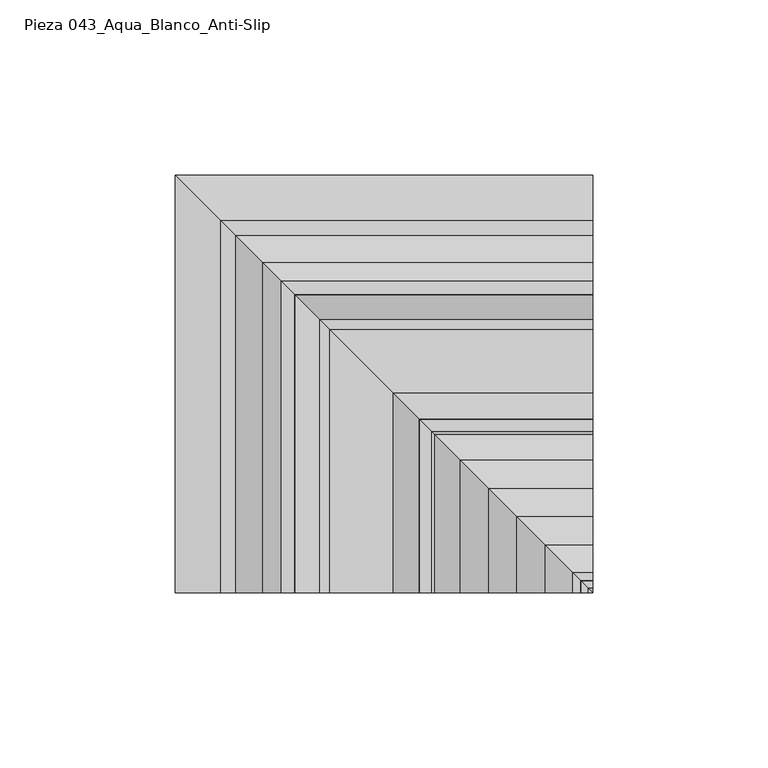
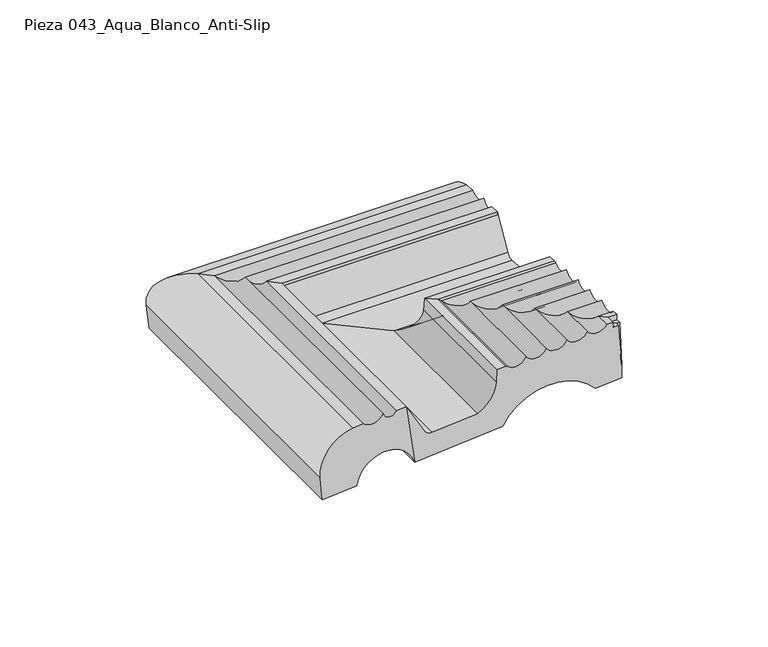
"""IFC4 building model written with IfcOpenShell, lengths in millimetres: proxy geometry, ROSA GRES_043 : Pieza 043_Aqua_Blanco_Anti-Slip."""

from ifc_helpers import new_model, si_unit, frame, origin, place, context, project, spatial, polyline, circle_curve, ellipse_curve, source, transform, mapped, element, save
from ifc_brep_helpers import plane_surface, cylinder_surface, revolved_surface, advanced_brep


def pieza_043_aqua_blanco_anti_slip_a5cfc191(model_context):
    return source(origin(), model_context, "Body", "AdvancedBrep", [
        advanced_brep(
        [(14.4453652, -119.0, 174.3159971), (37.253141, -119.0, 176.172444), (33.9473302, -119.0, 200.4746837), (30.0056531, -119.0, 200.1538709), (24.7958268, -119.0, 200.6193952), (17.0075724, -119.0, 199.1796191), (12.8459835, -119.0, 198.875801), (0.0, -119.0, 182.547869), (0.7606998, -119.0, 173.202129), (118.9496499, -14.4957154, 174.3159971), (118.9496499, -0.8110499, 173.202129), (118.9496499, -0.0503501, 182.547869), (118.9496499, -12.8963336, 198.875801), (118.9496499, -17.0579226, 199.1796191), (118.9496499, -24.8461769, 200.6193952), (118.9496499, -30.0560033, 200.1538709), (118.9496499, -33.9976804, 200.4746837), (118.9496499, -37.3034911, 176.172444), (0.7606998, -0.8110499, 173.202129), (14.4453652, -14.4957154, 174.3159971), (0.0, -0.0503501, 182.547869), (12.8459835, -12.8963336, 198.875801), (17.0075724, -17.0579226, 199.1796191), (24.7958268, -24.8461769, 200.6193952), (30.0056531, -30.0560033, 200.1538709), (33.9473302, -33.9976804, 200.4746837), (37.253141, -37.3034911, 176.172444)],
        [
            (0, 1, circle_curve(frame((26.0256757, -119.0, 173.0767428), z_axis=(0.0, 1.0, 0.0), x_axis=(-1.0, 0.0, 0.0)), 11.6464304)),
            (1, 2),
            (2, 3),
            (3, 4, circle_curve(frame((27.4682931, -119.0, 201.142641), z_axis=(0.0, 1.0, 0.0), x_axis=(-1.0, 0.0, 0.0)), 2.7232081)),
            (4, 5, circle_curve(frame((20.3719636, -119.0, 202.7650351), z_axis=(0.0, 1.0, 0.0), x_axis=(-1.0, 0.0, 0.0)), 4.9167404)),
            (5, 6),
            (6, 7, circle_curve(frame((15.2247132, -119.0, 183.7870899), z_axis=(0.0, -1.0, 0.0), x_axis=(-1.0, 0.0, 0.0)), 15.2750633)),
            (7, 8),
            (8, 0),
            (9, 10),
            (10, 11),
            (11, 12, circle_curve(frame((118.9496499, -15.2750633, 183.7870899), z_axis=(1.0, 0.0, 0.0), x_axis=(0.0, 1.0, 0.0)), 15.2750633)),
            (12, 13),
            (13, 14, circle_curve(frame((118.9496499, -20.4223138, 202.7650351), z_axis=(-1.0, 0.0, 0.0), x_axis=(0.0, 1.0, 0.0)), 4.9167404)),
            (14, 15, circle_curve(frame((118.9496499, -27.5186432, 201.142641), z_axis=(-1.0, 0.0, 0.0), x_axis=(0.0, 1.0, 0.0)), 2.7232081)),
            (15, 16),
            (16, 17),
            (17, 9, circle_curve(frame((118.9496499, -26.0760259, 173.0767428), z_axis=(-1.0, 0.0, 0.0), x_axis=(0.0, 1.0, 0.0)), 11.6464304)),
            (8, 18),
            (18, 19),
            (19, 0),
            (7, 20),
            (20, 18),
            (6, 21),
            (21, 20, ellipse_curve(frame((15.2247132, -15.2750633, 183.7870899), z_axis=(-0.707106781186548, -0.7071067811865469, 0.0), x_axis=(0.7071067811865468, -0.7071067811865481, 0.0)), 21.6022017, 15.2750633)),
            (5, 22),
            (22, 21),
            (4, 23),
            (23, 22, ellipse_curve(frame((20.3719636, -20.4223138, 202.7650351), z_axis=(0.707106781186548, 0.7071067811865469, 0.0), x_axis=(-0.7071067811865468, 0.7071067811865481, 0.0)), 6.9533209, 4.9167404)),
            (3, 24),
            (24, 23, ellipse_curve(frame((27.4682931, -27.5186432, 201.142641), z_axis=(0.707106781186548, 0.7071067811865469, 0.0), x_axis=(-0.7071067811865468, 0.7071067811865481, 0.0)), 3.8511979, 2.7232081)),
            (2, 25),
            (25, 24),
            (1, 26),
            (26, 25),
            (19, 26, ellipse_curve(frame((26.0256757, -26.0760259, 173.0767428), z_axis=(0.707106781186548, 0.7071067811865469, 0.0), x_axis=(-0.7071067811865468, 0.7071067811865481, 0.0)), 16.4705399, 11.6464304)),
            (18, 10),
            (9, 19),
            (20, 11),
            (21, 12),
            (22, 13),
            (23, 14),
            (24, 15),
            (25, 16),
            (26, 17),
        ],
        [
            plane_surface(frame((-0.0503501, -119.0, 0.0), z_axis=(0.0, -1.0, 0.0), x_axis=(0.0, 0.0, 1.0))),
            plane_surface(frame((118.9496499, 0.0, 0.0), z_axis=(1.0, 0.0, 0.0), x_axis=(0.0, 0.0, 1.0))),
            plane_surface(frame((14.4453652, -119.0, 174.3159971), z_axis=(0.0811270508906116, 0.0, -0.9967037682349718), x_axis=(0.0, 1.0, 0.0))),
            plane_surface(frame((0.7606998, -119.0, 173.202129), z_axis=(-0.9967037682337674, 0.0, -0.08112705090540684), x_axis=(0.0, 1.0, 0.0))),
            cylinder_surface(frame((15.2247132, -119.0, 183.7870899), z_axis=(0.0, -1.0, 0.0), x_axis=(-1.0, 0.0, 0.0)), 15.2750633),
            plane_surface(frame((12.8459835, -119.0, 198.875801), z_axis=(-0.07281152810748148, 0.0, 0.9973457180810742), x_axis=(0.0, 1.0, 0.0))),
            revolved_surface(polyline([(15.4552232, -15.505573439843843, 202.7650351), (15.4552232, -119.0, 202.7650351)]), (20.3719636, -119.0, 202.7650351), (0.0, 1.0, 0.0)),
            revolved_surface(polyline([(24.745085, -24.79543504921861, 201.142641), (24.745085, -119.0, 201.142641)]), (27.4682931, -119.0, 201.142641), (0.0, 1.0, 0.0)),
            plane_surface(frame((30.0056531, -119.0, 200.1538709), z_axis=(-0.08112168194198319, 0.0, 0.9967042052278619), x_axis=(0.0, 1.0, 0.0))),
            plane_surface(frame((33.9473302, -119.0, 200.4746837), z_axis=(0.9908744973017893, 0.0, 0.13478772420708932), x_axis=(0.0, 1.0, 0.0))),
            revolved_surface(polyline([(14.379245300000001, -14.42959544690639, 173.0767428), (14.379245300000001, -119.0, 173.0767428)]), (26.0256757, -119.0, 173.0767428), (0.0, 1.0, 0.0)),
            plane_surface(frame((14.4453652, -14.4957154, 174.3159971), z_axis=(0.0, -0.0811270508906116, -0.9967037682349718), x_axis=(1.0, 0.0, 0.0))),
            plane_surface(frame((0.7606998, -0.8110499, 173.202129), z_axis=(0.0, 0.9967037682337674, -0.08112705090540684), x_axis=(1.0, 0.0, 0.0))),
            cylinder_surface(frame((-0.0503501, -15.2750633, 183.7870899), z_axis=(-1.0, 0.0, 0.0), x_axis=(0.0, 1.0, 0.0)), 15.2750633),
            plane_surface(frame((12.8459835, -12.8963336, 198.875801), z_axis=(0.0, 0.07281152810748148, 0.9973457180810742), x_axis=(1.0, 0.0, 0.0))),
            revolved_surface(polyline([(118.9496499, -15.505573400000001, 202.7650351), (15.455223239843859, -15.505573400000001, 202.7650351)]), (-0.0503501, -20.4223138, 202.7650351), (1.0, 0.0, 0.0)),
            revolved_surface(polyline([(118.9496499, -24.7954351, 201.142641), (24.74508494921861, -24.7954351, 201.142641)]), (-0.0503501, -27.5186432, 201.142641), (1.0, 0.0, 0.0)),
            plane_surface(frame((30.0056531, -30.0560033, 200.1538709), z_axis=(0.0, 0.08112168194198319, 0.9967042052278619), x_axis=(1.0, 0.0, 0.0))),
            plane_surface(frame((33.9473302, -33.9976804, 200.4746837), z_axis=(0.0, -0.9908744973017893, 0.13478772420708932), x_axis=(1.0, 0.0, 0.0))),
            revolved_surface(polyline([(118.9496499, -14.429595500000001, 173.0767428), (14.379245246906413, -14.429595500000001, 173.0767428)]), (-0.0503501, -26.0760259, 173.0767428), (1.0, 0.0, 0.0)),
        ],
        [
            (0, [[1, 2, 3, 4, 5, 6, 7, 8, 9]]),
            (1, [[10, 11, 12, 13, 14, 15, 16, 17, 18]]),
            (2, [[19, 20, 21, -9]]),
            (3, [[22, 23, -19, -8]]),
            (4, [[24, 25, -22, -7]]),
            (5, [[26, 27, -24, -6]]),
            (6, [[28, 29, -26, -5]]),
            (7, [[30, 31, -28, -4]]),
            (8, [[32, 33, -30, -3]]),
            (9, [[34, 35, -32, -2]]),
            (10, [[-21, 36, -34, -1]]),
            (11, [[37, -10, 38, -20]]),
            (12, [[39, -11, -37, -23]]),
            (13, [[40, -12, -39, -25]]),
            (14, [[41, -13, -40, -27]]),
            (15, [[42, -14, -41, -29]]),
            (16, [[43, -15, -42, -31]]),
            (17, [[44, -16, -43, -33]]),
            (18, [[45, -17, -44, -35]]),
            (19, [[-38, -18, -45, -36]]),
        ],
    ),
        advanced_brep(
        [(37.253141, -37.3034911, 176.172444), (37.253141, -119.0, 176.172444), (33.9473302, -119.0, 200.4746837), (33.9473302, -33.9976804, 200.4746837), (118.9496499, -33.9976804, 200.4746837), (118.9496499, -37.3034911, 176.172444), (41.0113038, -119.0, 187.8896178), (41.0113038, -41.061654, 187.8896178), (43.8961827, -119.0, 186.3216491), (43.8961827, -43.9465329, 186.3216491), (61.9386313, -119.0, 187.7902205), (61.9386313, -61.9889815, 187.7902205), (69.3734393, -119.0, 198.236672), (69.3734393, -69.4237894, 198.236672), (69.7290719, -119.0, 203.3871621), (69.7290719, -69.7794221, 203.3871621), (72.9835988, -119.0, 203.6520655), (72.9835988, -73.033949, 203.6520655), (73.7500971, -119.0, 203.3835555), (73.7500971, -73.8004473, 203.3835555), (81.0982828, -119.0, 204.8942251), (81.0982828, -81.1486329, 204.8942251), (89.1544888, -119.0, 205.555394), (89.1544888, -89.2048389, 205.555394), (97.2003042, -119.0, 206.1928503), (97.2003042, -97.2506544, 206.1928503), (105.3453041, -119.0, 206.836894), (105.3453041, -105.3956543, 206.836894), (113.1371807, -119.0, 207.0070959), (113.1371807, -113.1875309, 207.0070959), (115.4202539, -119.0, 207.1930072), (115.4202539, -115.470604, 207.1930072), (115.6049701, -119.0, 204.9236084), (115.6049701, -115.6553202, 204.9236084), (117.5520053, -119.0, 205.0820876), (117.5520053, -117.6023554, 205.0820876), (118.9496499, -119.0, 187.9110258), (118.9496499, -119.0, 182.8221596), (108.4134013, -119.0, 181.9645582), (108.4134013, -108.4637515, 181.9645582), (71.9209601, -119.0, 178.9942432), (71.9209601, -71.9713103, 178.9942432), (118.9496499, -41.061654, 187.8896178), (118.9496499, -43.9465329, 186.3216491), (118.9496499, -61.9889815, 187.7902205), (118.9496499, -69.4237894, 198.236672), (118.9496499, -69.7794221, 203.3871621), (118.9496499, -73.033949, 203.6520655), (118.9496499, -73.8004473, 203.3835555), (118.9496499, -81.1486329, 204.8942251), (118.9496499, -89.2048389, 205.555394), (118.9496499, -97.2506544, 206.1928503), (118.9496499, -105.3956543, 206.836894), (118.9496499, -113.1875309, 207.0070959), (118.9496499, -115.470604, 207.1930072), (118.9496499, -115.6553202, 204.9236084), (118.9496499, -117.6023554, 205.0820876), (118.9496499, -108.4637515, 181.9645582), (118.9496499, -71.9713103, 178.9942432)],
        [
            (0, 1),
            (1, 2),
            (2, 3),
            (3, 0),
            (3, 4),
            (4, 5),
            (5, 0),
            (2, 6, circle_curve(frame((107.0308257, -119.0, 233.2212806), z_axis=(0.0, -1.0, 0.0), x_axis=(-1.0, 0.0, 0.0)), 80.084561)),
            (6, 7),
            (7, 3, ellipse_curve(frame((107.0308257, -107.0811758, 233.2212806), z_axis=(0.707106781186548, 0.7071067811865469, 0.0), x_axis=(-0.7071067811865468, 0.7071067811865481, 0.0)), 113.2566723, 80.084561)),
            (6, 8, circle_curve(frame((43.6528016, -119.0, 189.3117604), z_axis=(0.0, -1.0, 0.0), x_axis=(-1.0, 0.0, 0.0)), 3.0)),
            (8, 9),
            (9, 7, ellipse_curve(frame((43.6528016, -43.7031517, 189.3117604), z_axis=(0.707106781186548, 0.7071067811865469, 0.0), x_axis=(-0.7071067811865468, 0.7071067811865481, 0.0)), 4.2426407, 3.0)),
            (8, 10),
            (10, 11),
            (11, 9),
            (10, 12, circle_curve(frame((57.1290983, -119.0, 199.0821231), z_axis=(0.0, -1.0, 0.0), x_axis=(-1.0, 0.0, 0.0)), 12.2734948)),
            (12, 13),
            (13, 11, ellipse_curve(frame((57.1290983, -57.1794484, 199.0821231), z_axis=(0.707106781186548, 0.7071067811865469, 0.0), x_axis=(-0.7071067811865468, 0.7071067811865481, 0.0)), 17.3573428, 12.2734948)),
            (12, 14),
            (14, 15),
            (15, 13),
            (14, 16),
            (16, 17),
            (17, 15),
            (16, 18, circle_curve(frame((73.0647259, -119.0, 202.6553617), z_axis=(0.0, 1.0, 0.0), x_axis=(-1.0, 0.0, 0.0)), 1.0)),
            (18, 19),
            (19, 17, ellipse_curve(frame((73.0647259, -73.115076, 202.6553617), z_axis=(-0.707106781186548, -0.7071067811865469, 0.0), x_axis=(0.7071067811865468, -0.7071067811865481, 0.0)), 1.4142136, 1.0)),
            (18, 20, circle_curve(frame((76.8929781, -119.0, 206.722806), z_axis=(0.0, -1.0, 0.0), x_axis=(-1.0, 0.0, 0.0)), 4.5856619)),
            (20, 21),
            (21, 19, ellipse_curve(frame((76.8929781, -76.9433283, 206.722806), z_axis=(0.707106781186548, 0.7071067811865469, 0.0), x_axis=(-0.7071067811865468, 0.7071067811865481, 0.0)), 6.4851052, 4.5856619)),
            (20, 22, circle_curve(frame((84.9491841, -119.0, 207.3839748), z_axis=(0.0, -1.0, 0.0), x_axis=(-1.0, 0.0, 0.0)), 4.5856619)),
            (22, 23),
            (23, 21, ellipse_curve(frame((84.9491841, -84.9995343, 207.3839748), z_axis=(0.707106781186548, 0.7071067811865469, 0.0), x_axis=(-0.7071067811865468, 0.7071067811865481, 0.0)), 6.4851052, 4.5856619)),
            (22, 24, circle_curve(frame((93.0053901, -119.0, 208.0451437), z_axis=(0.0, -1.0, 0.0), x_axis=(-1.0, 0.0, 0.0)), 4.5856619)),
            (24, 25),
            (25, 23, ellipse_curve(frame((93.0053901, -93.0557403, 208.0451437), z_axis=(0.707106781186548, 0.7071067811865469, 0.0), x_axis=(-0.7071067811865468, 0.7071067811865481, 0.0)), 6.4851052, 4.5856619)),
            (24, 26, circle_curve(frame((101.0644057, -119.0, 209.1504161), z_axis=(0.0, -1.0, 0.0), x_axis=(-1.0, 0.0, 0.0)), 4.8660534)),
            (26, 27),
            (27, 25, ellipse_curve(frame((101.0644057, -101.1147559, 209.1504161), z_axis=(0.707106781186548, 0.7071067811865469, 0.0), x_axis=(-0.7071067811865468, 0.7071067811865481, 0.0)), 6.8816387, 4.8660534)),
            (26, 28, circle_curve(frame((109.1785237, -119.0, 209.7932705), z_axis=(0.0, -1.0, 0.0), x_axis=(-1.0, 0.0, 0.0)), 4.8408403)),
            (28, 29),
            (29, 27, ellipse_curve(frame((109.1785237, -109.2288739, 209.7932705), z_axis=(0.707106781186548, 0.7071067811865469, 0.0), x_axis=(-0.7071067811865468, 0.7071067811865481, 0.0)), 6.8459819, 4.8408403)),
            (28, 30),
            (30, 31),
            (31, 29),
            (30, 32),
            (32, 33),
            (33, 31),
            (32, 34),
            (34, 35),
            (35, 33),
            (34, 36),
            (36, 35),
            (37, 38),
            (38, 39),
            (39, 37),
            (38, 40, circle_curve(frame((91.2336167, -119.0, 167.3774726), z_axis=(0.0, -1.0, 0.0), x_axis=(-1.0, 0.0, 0.0)), 22.5372595)),
            (40, 41),
            (41, 39, ellipse_curve(frame((91.2336167, -91.2839669, 167.3774726), z_axis=(0.707106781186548, 0.7071067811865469, 0.0), x_axis=(-0.7071067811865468, 0.7071067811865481, 0.0)), 31.872498, 22.5372595)),
            (40, 1),
            (0, 41),
            (7, 42),
            (42, 4, circle_curve(frame((118.9496499, -107.0811758, 233.2212806), z_axis=(1.0, 0.0, 0.0), x_axis=(0.0, 1.0, 0.0)), 80.084561)),
            (9, 43),
            (43, 42, circle_curve(frame((118.9496499, -43.7031517, 189.3117604), z_axis=(1.0, 0.0, 0.0), x_axis=(0.0, 1.0, 0.0)), 3.0)),
            (11, 44),
            (44, 43),
            (13, 45),
            (45, 44, circle_curve(frame((118.9496499, -57.1794484, 199.0821231), z_axis=(1.0, 0.0, 0.0), x_axis=(0.0, 1.0, 0.0)), 12.2734948)),
            (15, 46),
            (46, 45),
            (17, 47),
            (47, 46),
            (19, 48),
            (48, 47, circle_curve(frame((118.9496499, -73.115076, 202.6553617), z_axis=(-1.0, 0.0, 0.0), x_axis=(0.0, 1.0, 0.0)), 1.0)),
            (21, 49),
            (49, 48, circle_curve(frame((118.9496499, -76.9433283, 206.722806), z_axis=(1.0, 0.0, 0.0), x_axis=(0.0, 1.0, 0.0)), 4.5856619)),
            (23, 50),
            (50, 49, circle_curve(frame((118.9496499, -84.9995343, 207.3839748), z_axis=(1.0, 0.0, 0.0), x_axis=(0.0, 1.0, 0.0)), 4.5856619)),
            (25, 51),
            (51, 50, circle_curve(frame((118.9496499, -93.0557403, 208.0451437), z_axis=(1.0, 0.0, 0.0), x_axis=(0.0, 1.0, 0.0)), 4.5856619)),
            (27, 52),
            (52, 51, circle_curve(frame((118.9496499, -101.1147559, 209.1504161), z_axis=(1.0, 0.0, 0.0), x_axis=(0.0, 1.0, 0.0)), 4.8660534)),
            (29, 53),
            (53, 52, circle_curve(frame((118.9496499, -109.2288739, 209.7932705), z_axis=(1.0, 0.0, 0.0), x_axis=(0.0, 1.0, 0.0)), 4.8408403)),
            (31, 54),
            (54, 53),
            (33, 55),
            (55, 54),
            (35, 56),
            (56, 55),
            (36, 56),
            (39, 57),
            (57, 37),
            (41, 58),
            (58, 57, circle_curve(frame((118.9496499, -91.2839669, 167.3774726), z_axis=(1.0, 0.0, 0.0), x_axis=(0.0, 1.0, 0.0)), 22.5372595)),
            (5, 58),
            (36, 37),
        ],
        [
            plane_surface(frame((37.253141, -125.0, 176.172444), z_axis=(-0.9908744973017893, 0.0, -0.13478772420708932), x_axis=(0.0, 1.0, 0.0))),
            plane_surface(frame((37.253141, -37.3034911, 176.172444), z_axis=(0.0, 0.9908744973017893, -0.13478772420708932), x_axis=(1.0, 0.0, 0.0))),
            revolved_surface(polyline([(26.9462647, -26.996614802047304, 233.2212806), (26.9462647, -187.1657367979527, 233.2212806)]), (107.0308257, -125.0, 233.2212806), (0.0, 1.0, 0.0)),
            revolved_surface(polyline([(40.6528016, -40.70315169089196, 189.3117604), (40.6528016, -119.0, 189.3117604)]), (43.6528016, -125.0, 189.3117604), (0.0, 1.0, 0.0)),
            plane_surface(frame((43.8961827, -125.0, 186.3216491), z_axis=(-0.08112705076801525, 0.0, 0.9967037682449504), x_axis=(0.0, 1.0, 0.0))),
            revolved_surface(polyline([(44.8556035, -44.905953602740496, 199.0821231), (44.8556035, -119.0, 199.0821231)]), (57.1290983, -125.0, 199.0821231), (0.0, 1.0, 0.0)),
            plane_surface(frame((69.3734393, -125.0, 198.236672), z_axis=(-0.9976246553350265, 0.0, 0.06888430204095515), x_axis=(0.0, 1.0, 0.0))),
            plane_surface(frame((69.7290719, -125.0, 203.3871621), z_axis=(-0.08112705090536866, 0.0, 0.9967037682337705), x_axis=(0.0, 1.0, 0.0))),
            cylinder_surface(frame((73.0647259, -125.0, 202.6553617), z_axis=(0.0, -1.0, 0.0), x_axis=(-1.0, 0.0, 0.0)), 1.0),
            revolved_surface(polyline([(72.30731619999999, -72.35766643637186, 206.722806), (72.30731619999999, -119.0, 206.722806)]), (76.8929781, -125.0, 206.722806), (0.0, 1.0, 0.0)),
            revolved_surface(polyline([(80.36352219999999, -80.41387243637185, 207.3839748), (80.36352219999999, -119.0, 207.3839748)]), (84.9491841, -125.0, 207.3839748), (0.0, 1.0, 0.0)),
            revolved_surface(polyline([(88.4197282, -88.47007843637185, 208.0451437), (88.4197282, -119.0, 208.0451437)]), (93.0053901, -125.0, 208.0451437), (0.0, 1.0, 0.0)),
            revolved_surface(polyline([(96.1983523, -96.24870250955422, 209.1504161), (96.1983523, -119.0, 209.1504161)]), (101.0644057, -125.0, 209.1504161), (0.0, 1.0, 0.0)),
            revolved_surface(polyline([(104.3376834, -104.38803367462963, 209.7932705), (104.3376834, -119.0, 209.7932705)]), (109.1785237, -125.0, 209.7932705), (0.0, 1.0, 0.0)),
            plane_surface(frame((113.1371807, -125.0, 207.0070959), z_axis=(-0.08116163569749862, 0.0, 0.9967009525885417), x_axis=(0.0, 1.0, 0.0))),
            plane_surface(frame((115.4202539, -125.0, 207.1930072), z_axis=(0.9967038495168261, 0.0, 0.0811260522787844), x_axis=(0.0, 1.0, 0.0))),
            plane_surface(frame((115.6049701, -125.0, 204.9236084), z_axis=(-0.08112681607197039, 0.0, 0.9967037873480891), x_axis=(0.0, 1.0, 0.0))),
            plane_surface(frame((117.5520053, -125.0, 205.0820876), z_axis=(0.9967037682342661, 0.0, 0.08112705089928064), x_axis=(0.0, 1.0, 0.0))),
            plane_surface(frame((119.3611337, -125.0, 182.8556525), z_axis=(0.08112703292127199, 0.0, -0.9967037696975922), x_axis=(0.0, 1.0, 0.0))),
            revolved_surface(polyline([(68.6963572, -68.7467074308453, 167.3774726), (68.6963572, -119.0, 167.3774726)]), (91.2336167, -125.0, 167.3774726), (0.0, 1.0, 0.0)),
            plane_surface(frame((71.9209601, -125.0, 178.9942432), z_axis=(0.08112705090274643, 0.0, -0.996703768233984), x_axis=(0.0, 1.0, 0.0))),
            revolved_surface(polyline([(187.11538669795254, -26.996614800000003, 233.2212806), (26.94626470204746, -26.996614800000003, 233.2212806)]), (-0.0503501, -107.0811758, 233.2212806), (1.0, 0.0, 0.0)),
            revolved_surface(polyline([(118.9496499, -40.7031517, 189.3117604), (40.65280159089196, -40.7031517, 189.3117604)]), (-0.0503501, -43.7031517, 189.3117604), (1.0, 0.0, 0.0)),
            plane_surface(frame((43.8961827, -43.9465329, 186.3216491), z_axis=(0.0, 0.08112705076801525, 0.9967037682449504), x_axis=(1.0, 0.0, 0.0))),
            revolved_surface(polyline([(118.9496499, -44.9059536, 199.0821231), (44.85560350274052, -44.9059536, 199.0821231)]), (-0.0503501, -57.1794484, 199.0821231), (1.0, 0.0, 0.0)),
            plane_surface(frame((69.3734393, -69.4237894, 198.236672), z_axis=(0.0, 0.9976246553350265, 0.06888430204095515), x_axis=(1.0, 0.0, 0.0))),
            plane_surface(frame((69.7290719, -69.7794221, 203.3871621), z_axis=(0.0, 0.08112705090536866, 0.9967037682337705), x_axis=(1.0, 0.0, 0.0))),
            cylinder_surface(frame((-0.0503501, -73.115076, 202.6553617), z_axis=(-1.0, 0.0, 0.0), x_axis=(0.0, 1.0, 0.0)), 1.0),
            revolved_surface(polyline([(118.9496499, -72.3576664, 206.722806), (72.30731623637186, -72.3576664, 206.722806)]), (-0.0503501, -76.9433283, 206.722806), (1.0, 0.0, 0.0)),
            revolved_surface(polyline([(118.9496499, -80.41387239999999, 207.3839748), (80.36352223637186, -80.41387239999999, 207.3839748)]), (-0.0503501, -84.9995343, 207.3839748), (1.0, 0.0, 0.0)),
            revolved_surface(polyline([(118.9496499, -88.47007839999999, 208.0451437), (88.41972823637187, -88.47007839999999, 208.0451437)]), (-0.0503501, -93.0557403, 208.0451437), (1.0, 0.0, 0.0)),
            revolved_surface(polyline([(118.9496499, -96.24870250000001, 209.1504161), (96.19835230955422, -96.24870250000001, 209.1504161)]), (-0.0503501, -101.1147559, 209.1504161), (1.0, 0.0, 0.0)),
            revolved_surface(polyline([(118.9496499, -104.3880336, 209.7932705), (104.33768347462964, -104.3880336, 209.7932705)]), (-0.0503501, -109.2288739, 209.7932705), (1.0, 0.0, 0.0)),
            plane_surface(frame((113.1371807, -113.1875309, 207.0070959), z_axis=(0.0, 0.08116163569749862, 0.9967009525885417), x_axis=(1.0, 0.0, 0.0))),
            plane_surface(frame((115.4202539, -115.470604, 207.1930072), z_axis=(0.0, -0.9967038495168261, 0.0811260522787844), x_axis=(1.0, 0.0, 0.0))),
            plane_surface(frame((115.6049701, -115.6553202, 204.9236084), z_axis=(0.0, 0.08112681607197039, 0.9967037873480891), x_axis=(1.0, 0.0, 0.0))),
            plane_surface(frame((117.5520053, -117.6023554, 205.0820876), z_axis=(0.0, -0.9967037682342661, 0.08112705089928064), x_axis=(1.0, 0.0, 0.0))),
            plane_surface(frame((119.3611337, -119.4114839, 182.8556525), z_axis=(0.0, -0.08112703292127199, -0.9967037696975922), x_axis=(1.0, 0.0, 0.0))),
            revolved_surface(polyline([(118.9496499, -68.74670739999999, 167.3774726), (68.69635723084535, -68.74670739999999, 167.3774726)]), (-0.0503501, -91.2839669, 167.3774726), (1.0, 0.0, 0.0)),
            plane_surface(frame((71.9209601, -71.9713103, 178.9942432), z_axis=(0.0, -0.08112705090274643, -0.996703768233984), x_axis=(1.0, 0.0, 0.0))),
            plane_surface(frame((118.9496499, -120.0, 216.714655), z_axis=(1.0, 0.0, 0.0), x_axis=(0.0, 0.0, -1.0))),
            plane_surface(frame((0.0503501, -119.0, 216.714655), z_axis=(0.0, -1.0, 0.0), x_axis=(0.0, 0.0, -1.0))),
        ],
        [
            (0, [[1, 2, 3, 4]]),
            (1, [[5, 6, 7, -4]]),
            (2, [[-3, 8, 9, 10]]),
            (3, [[-9, 11, 12, 13]]),
            (4, [[-12, 14, 15, 16]]),
            (5, [[-15, 17, 18, 19]]),
            (6, [[-18, 20, 21, 22]]),
            (7, [[-21, 23, 24, 25]]),
            (8, [[-24, 26, 27, 28]]),
            (9, [[-27, 29, 30, 31]]),
            (10, [[-30, 32, 33, 34]]),
            (11, [[-33, 35, 36, 37]]),
            (12, [[-36, 38, 39, 40]]),
            (13, [[-39, 41, 42, 43]]),
            (14, [[-42, 44, 45, 46]]),
            (15, [[-45, 47, 48, 49]]),
            (16, [[-48, 50, 51, 52]]),
            (17, [[-51, 53, 54]]),
            (18, [[55, 56, 57]]),
            (19, [[-56, 58, 59, 60]]),
            (20, [[-59, 61, -1, 62]]),
            (21, [[63, 64, -5, -10]]),
            (22, [[65, 66, -63, -13]]),
            (23, [[67, 68, -65, -16]]),
            (24, [[69, 70, -67, -19]]),
            (25, [[71, 72, -69, -22]]),
            (26, [[73, 74, -71, -25]]),
            (27, [[75, 76, -73, -28]]),
            (28, [[77, 78, -75, -31]]),
            (29, [[79, 80, -77, -34]]),
            (30, [[81, 82, -79, -37]]),
            (31, [[83, 84, -81, -40]]),
            (32, [[85, 86, -83, -43]]),
            (33, [[87, 88, -85, -46]]),
            (34, [[89, 90, -87, -49]]),
            (35, [[91, 92, -89, -52]]),
            (36, [[93, -91, -54]]),
            (37, [[94, 95, -57]]),
            (38, [[96, 97, -94, -60]]),
            (39, [[-7, 98, -96, -62]]),
            (40, [[-64, -66, -68, -70, -72, -74, -76, -78, -80, -82, -84, -86, -88, -90, -92, -93, 99, -95, -97, -98, -6]]),
            (41, [[-61, -58, -55, -99, -53, -50, -47, -44, -41, -38, -35, -32, -29, -26, -23, -20, -17, -14, -11, -8, -2]]),
        ],
    ),
    ])


if __name__ == "__main__":
    model = new_model("IFC4")
    model_context = context("Model", 3, world=origin())
    ifc_project = project(units=[si_unit("LENGTHUNIT", "METRE", prefix="MILLI")], contexts=[model_context])
    site = spatial("IfcSite", under=ifc_project)
    building = spatial("IfcBuilding", under=site)
    placement = place(None, origin())
    pieza_043_aqua_blanco_anti_slip_shape = pieza_043_aqua_blanco_anti_slip_a5cfc191(model_context)
    element("IfcBuildingElementProxy", 1, Name="ROSA GRES_043 : Pieza 043_Aqua_Blanco_Anti-Slip", ObjectType="ROSA GRES_043 : Pieza 043_Aqua_Blanco_Anti-Slip", at=placement, inside=building, context=model_context, shape_type="MappedRepresentation", body=[
        mapped(pieza_043_aqua_blanco_anti_slip_shape, transform((0.0, 0.0, 0.0), x_axis=(1.0, 0.0, 0.0), y_axis=(0.0, 1.0, 0.0), z_axis=(0.0, 0.0, 1.0))),
    ])
    save(model, "model.ifc")
